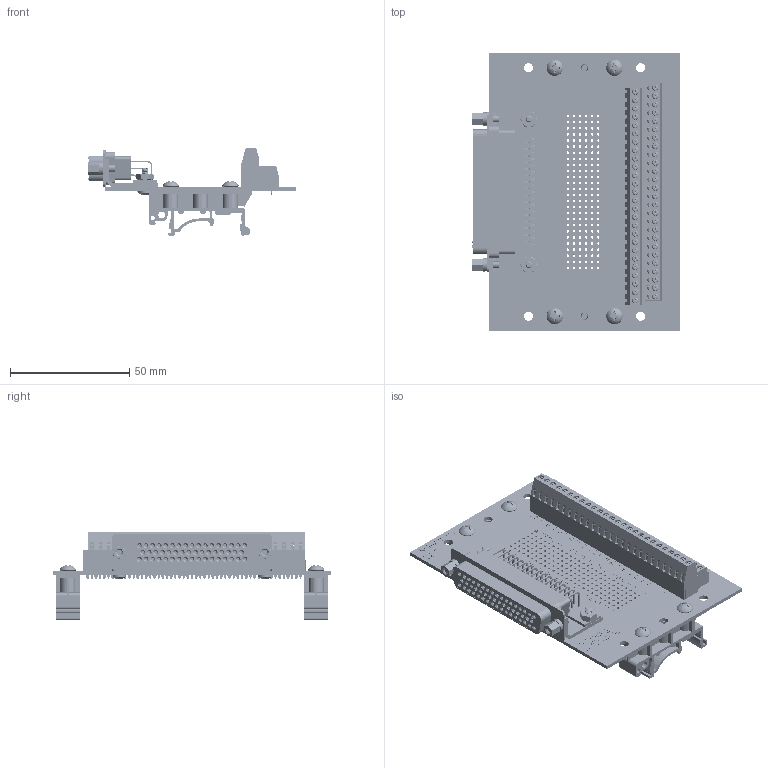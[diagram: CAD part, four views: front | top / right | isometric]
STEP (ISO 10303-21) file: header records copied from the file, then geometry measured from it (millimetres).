
FILE_DESCRIPTION (( 'STEP AP214' ), '1' );
FILE_NAME ('brkdd50fv2-r-din.step', '2017-07-06T19:19:56', ( '' ), ( '' ), 'SwSTEP 2.0', 'SolidWorks 2017', '' );
FILE_SCHEMA (( 'AUTOMOTIVE_DESIGN' ));
Length unit declared in the file: millimetre
Products named in the file (9): SCMAPP-4-A-0.375-BULK_90272A108; brkdd50fv2-r-din; BRKDD50FV2; dinm01; db50f-ra; SCSMPP-6-0.375-BULK_90184A127; SN-4-40-A-BULK_91841A005; term-6; term-4
Assembly tree (21 placements, depth 2):
  brkdd50fv2-r-din
    BRKDD50FV2
    db50f-ra
    SCMAPP-4-A-0.375-BULK_90272A108  x2
    SN-4-40-A-BULK_91841A005  x2
    dinm01  x2
    SCSMPP-6-0.375-BULK_90184A127  x4
    term-4
    term-6  x8
Bounding box: 87.19 x 116.84 x 36.78 mm (x, y, z)
Volume: 43992.6 mm3; surface area: 70461.3 mm2
Topology: 417 solids, 419 shells, 19578 faces, 51241 edges, 32820 vertices
Faces by surface type: plane 11352, cylinder 4466, bspline 2364, torus 704, cone 680, sphere 12
Entity records: 456267 total; most frequent: CARTESIAN_POINT 121026, ORIENTED_EDGE 57998, DIRECTION 46581, EDGE_CURVE 28999, VECTOR 21717, LINE 21717, VERTEX_POINT 19009, AXIS2_PLACEMENT_3D 12432
